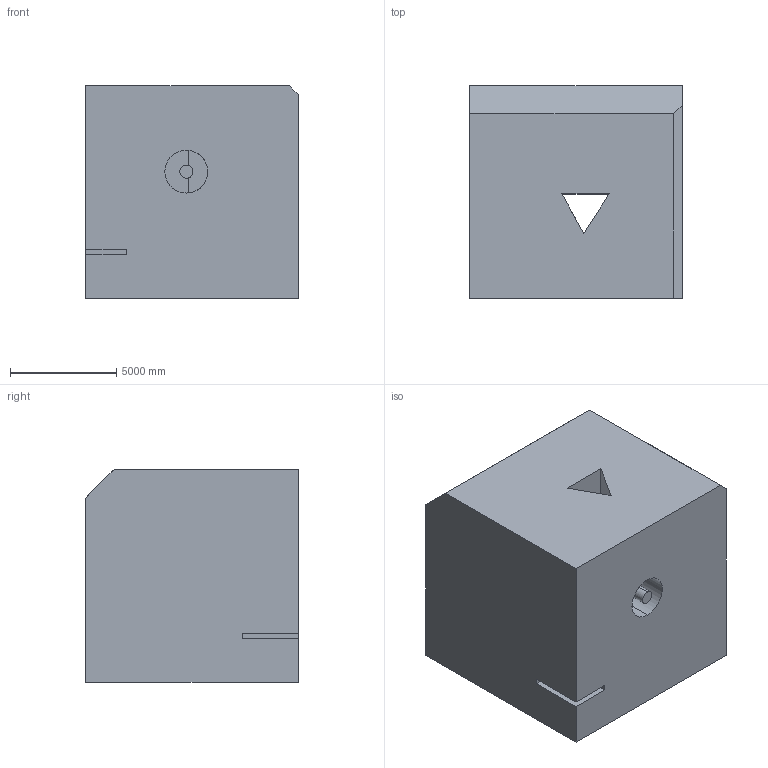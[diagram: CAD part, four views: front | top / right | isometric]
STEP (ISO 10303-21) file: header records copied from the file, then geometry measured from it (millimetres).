
FILE_DESCRIPTION (( 'STEP AP203' ), '1' );
FILE_NAME ('148.STEP', '2022-09-05T15:44:46', ( 'user' ), ( '' ), 'SwSTEP 2.0', 'SolidWorks 2021', '' );
FILE_SCHEMA (( 'CONFIG_CONTROL_DESIGN' ));
Length unit declared in the file: centimetre
Products named in the file (1): 148
Bounding box: 10000 x 10000 x 10000 mm (x, y, z)
Volume: 957141334713.3 mm3; surface area: 687586596.8 mm2
Topology: 1 solids, 1 shells, 21 faces, 60 edges, 40 vertices
Faces by surface type: plane 17, cylinder 4
Entity records: 769 total; most frequent: CARTESIAN_POINT 134, ORIENTED_EDGE 120, DIRECTION 110, EDGE_CURVE 60, VECTOR 46, LINE 46, VERTEX_POINT 40, AXIS2_PLACEMENT_3D 32
